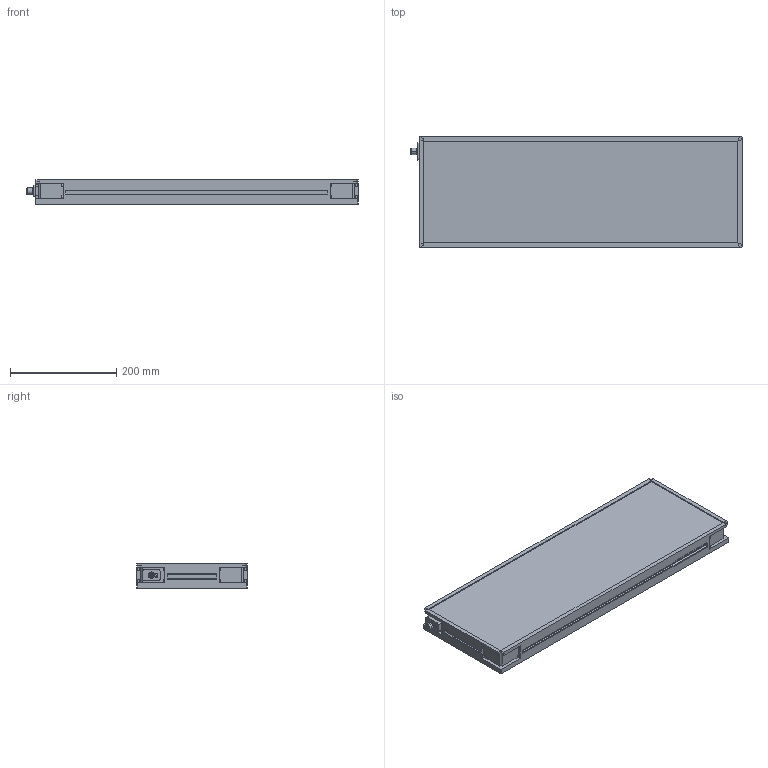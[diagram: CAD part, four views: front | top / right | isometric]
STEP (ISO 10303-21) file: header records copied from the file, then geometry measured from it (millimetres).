
FILE_DESCRIPTION (( 'STEP AP214' ), '1' );
FILE_NAME ('MBACK-xxxx-xxx-M1_CLIENT200x600.STEP', '2022-03-31T15:59:02', ( '' ), ( '' ), 'SwSTEP 2.0', 'SolidWorks 2020', '' );
FILE_SCHEMA (( 'AUTOMOTIVE_DESIGN' ));
Length unit declared in the file: millimetre
Products named in the file (1): MBACK-xxxx-xxx-M1_CLIENT200x600
Bounding box: 625.9 x 208 x 45.5 mm (x, y, z)
Volume: 5203147.6 mm3; surface area: 361091.1 mm2
Topology: 1 solids, 1 shells, 442 faces, 1144 edges, 760 vertices
Faces by surface type: plane 249, cylinder 105, bspline 80, cone 8
Entity records: 17236 total; most frequent: CARTESIAN_POINT 6699, ORIENTED_EDGE 2288, DIRECTION 1936, EDGE_CURVE 1144, VERTEX_POINT 760, VECTOR 758, LINE 758, AXIS2_PLACEMENT_3D 589
